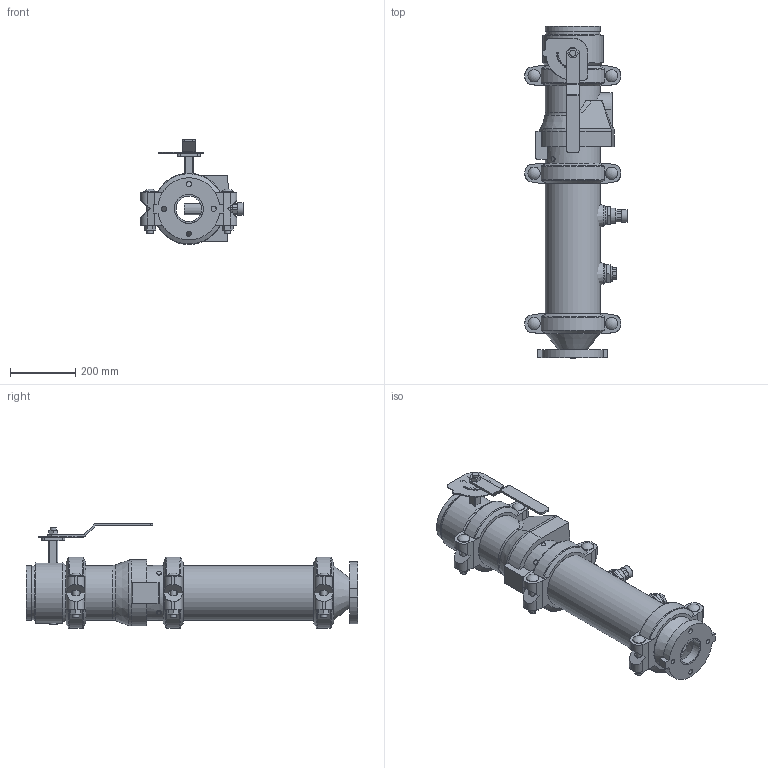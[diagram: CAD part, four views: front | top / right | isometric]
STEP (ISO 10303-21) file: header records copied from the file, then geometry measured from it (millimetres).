
FILE_DESCRIPTION(/* description */ ('VIC DVI PUMP DROP VERT S/380 (OGSxFLG) (S/924-0.75)','CAx-IF Rec.Pracs.---Representation and Presentation of Product Manufacturing Information (PMI)---4.0---2014-10-13'),/* implementation_level */ '2;1');
FILE_NAME(/* name */ 'C:\Users\Public\Documents\Victaulic.Temp\A765\Victaulic_IPS_Vertical DVI_CL 150_Series 380 (OGSxFLG)_924 (0.75)_06.0x03.0 (150x80).stp',/* time_stamp */ '2022-07-25T11:12:20+02:00',/* author */ ('Vjadhav'),/* organization */ ('Victaulic'),/* preprocessor_version */ 'ST-DEVELOPER v18',/* originating_system */ 'Autodesk Inventor 2020',/* authorisation */ '');
FILE_SCHEMA (('AP242_MANAGED_MODEL_BASED_3D_ENGINEERING_MIM_LF { 1 0 10303 442 1 1 4 }'));
Length unit declared in the file: inch
Products named in the file (9): 380_924 (0.75)-06.0x03.0; 741-03.0; 050-06.0x03.0; Pipe-06.0; 177N-06.0; 761-06.0; 779-06.0; 923-04.0x0.75; 924-04.0x0.75
Assembly tree (10 placements, depth 2):
  380_924 (0.75)-06.0x03.0
    741-03.0
    050-06.0x03.0
    177N-06.0  x3
    Pipe-06.0
    761-06.0
    779-06.0
    923-04.0x0.75
    924-04.0x0.75
Bounding box: 313.48 x 1019.17 x 322.07 mm (x, y, z)
Volume: 10844106.4 mm3; surface area: 1799955.9 mm2
Topology: 10 solids, 11 shells, 587 faces, 1531 edges, 1024 vertices
Faces by surface type: plane 345, cylinder 196, cone 20, torus 18, sphere 6, bspline 2
Full cylindrical faces by diameter (mm): 4.826 x10, 8.636 x4, 13.716 x4, 15.875 x4, 19.05 x8, 22.86 x1, 26.67 x2, 37.694 x6, 38.608 x1, 45.974 x4, 55.118 x1, 55.626 x2, 77.927 x1, 84.938 x1, 88.9 x3, 154.051 x4, 155.575 x3, 163.957 x7, 168.275 x19, 185.42 x1
Entity records: 13926 total; most frequent: CARTESIAN_POINT 2767, DIRECTION 2297, ORIENTED_EDGE 2090, EDGE_CURVE 1045, AXIS2_PLACEMENT_3D 872, VERTEX_POINT 704, LINE 553, VECTOR 553
